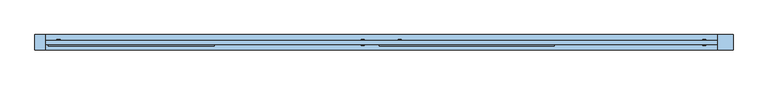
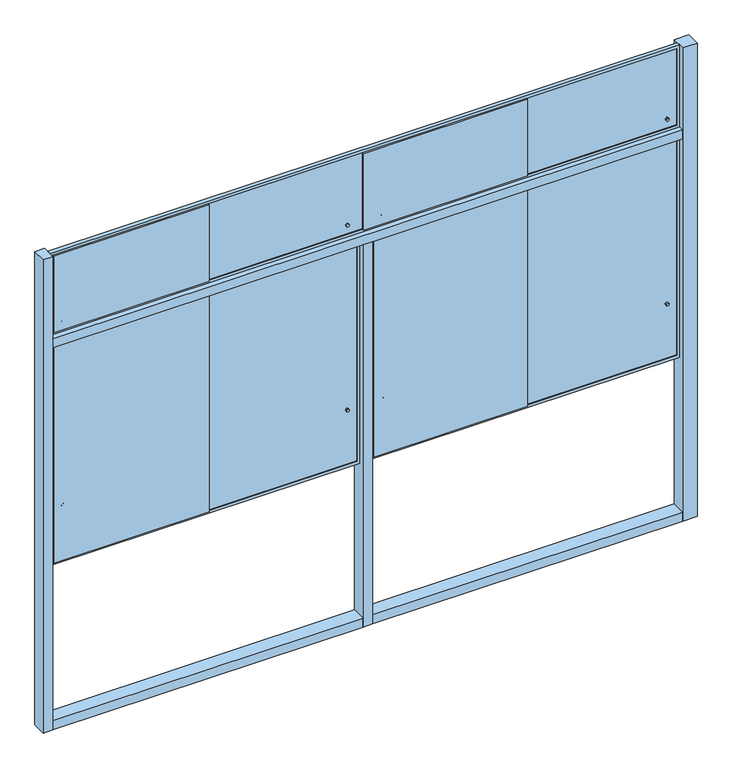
"""IFC4 building model written with IfcOpenShell, lengths in millimetres: window geometry, A5 Cerramiento interior vidrios corredizos : A5 Cerramiento interior vidrios corredizos."""

from ifc_helpers import new_model, si_unit, point, frame, frame_2d, origin, origin_with_axes, place, context, project, spatial, polyline, circle_curve, trimmed, segment, composite_curve, outline, extrude, source, transform, mapped, element, save


def window_60c9f324(model_context):
    return source(origin(), model_context, "Body", "SweptSolid", [
        extrude(outline(composite_curve([segment(trimmed(circle_curve(frame_2d((2215.0, -102.5)), 7.5), [point((2215.0, -110.0))], [point((2215.0, -95.0))], False, "CARTESIAN"), True, "CONTINUOUS"), segment(trimmed(circle_curve(frame_2d((2215.0, -102.5)), 7.5), [point((2215.0, -95.0))], [point((2215.0, -110.0))], False, "CARTESIAN"), True, "CONTINUOUS")], self_intersect=False)), frame((0.0, -15.0, 0.0), z_axis=(0.0, 1.0, 0.0), x_axis=(0.0, 0.0, 1.0)), (0.0, 0.0, 1.0), 30.0),
        extrude(outline(composite_curve([segment(trimmed(circle_curve(frame_2d((1200.0, -102.5)), 7.5), [point((1200.0, -110.0))], [point((1200.0, -95.0))], False, "CARTESIAN"), True, "CONTINUOUS"), segment(trimmed(circle_curve(frame_2d((1200.0, -102.5)), 7.5), [point((1200.0, -95.0))], [point((1200.0, -110.0))], False, "CARTESIAN"), True, "CONTINUOUS")], self_intersect=False)), frame((0.0, -15.0, 0.0), z_axis=(0.0, 1.0, 0.0), x_axis=(0.0, 0.0, 1.0)), (0.0, 0.0, 1.0), 30.0),
        extrude(outline(composite_curve([segment(trimmed(circle_curve(frame_2d((2215.0, 77.4048675)), 7.5), [point((2215.0, 69.9048675))], [point((2215.0, 84.9048675))], False, "CARTESIAN"), True, "CONTINUOUS"), segment(trimmed(circle_curve(frame_2d((2215.0, 77.4048675)), 7.5), [point((2215.0, 84.9048675))], [point((2215.0, 69.9048675))], False, "CARTESIAN"), True, "CONTINUOUS")], self_intersect=False)), frame((0.0, -15.0, 0.0), z_axis=(0.0, 1.0, 0.0), x_axis=(0.0, 0.0, 1.0)), (0.0, 0.0, 1.0), 30.0),
        extrude(outline(composite_curve([segment(trimmed(circle_curve(frame_2d((1200.0, 77.4048675)), 7.5), [point((1200.0, 69.9048675))], [point((1200.0, 84.9048675))], False, "CARTESIAN"), True, "CONTINUOUS"), segment(trimmed(circle_curve(frame_2d((1200.0, 77.4048675)), 7.5), [point((1200.0, 84.9048675))], [point((1200.0, 69.9048675))], False, "CARTESIAN"), True, "CONTINUOUS")], self_intersect=False)), frame((0.0, -15.0, 0.0), z_axis=(0.0, 1.0, 0.0), x_axis=(0.0, 0.0, 1.0)), (0.0, 0.0, 1.0), 30.0),
        extrude(outline(composite_curve([segment(trimmed(circle_curve(frame_2d((2215.0, 1560.0)), 7.5), [point((2215.0, 1552.5))], [point((2215.0, 1567.5))], False, "CARTESIAN"), True, "CONTINUOUS"), segment(trimmed(circle_curve(frame_2d((2215.0, 1560.0)), 7.5), [point((2215.0, 1567.5))], [point((2215.0, 1552.5))], False, "CARTESIAN"), True, "CONTINUOUS")], self_intersect=False)), frame((0.0, -15.0, 0.0), z_axis=(0.0, 1.0, 0.0), x_axis=(0.0, 0.0, 1.0)), (0.0, 0.0, 1.0), 30.0),
        extrude(outline(composite_curve([segment(trimmed(circle_curve(frame_2d((2215.0, -1585.0)), 7.5), [point((2215.0, -1592.5))], [point((2215.0, -1577.5))], False, "CARTESIAN"), True, "CONTINUOUS"), segment(trimmed(circle_curve(frame_2d((2215.0, -1585.0)), 7.5), [point((2215.0, -1577.5))], [point((2215.0, -1592.5))], False, "CARTESIAN"), True, "CONTINUOUS")], self_intersect=False)), frame((0.0, -15.0, 0.0), z_axis=(0.0, 1.0, 0.0), x_axis=(0.0, 0.0, 1.0)), (0.0, 0.0, 1.0), 30.0),
        extrude(outline(composite_curve([segment(trimmed(circle_curve(frame_2d((1200.0, 1560.0)), 7.5), [point((1200.0, 1552.5))], [point((1200.0, 1567.5))], False, "CARTESIAN"), True, "CONTINUOUS"), segment(trimmed(circle_curve(frame_2d((1200.0, 1560.0)), 7.5), [point((1200.0, 1567.5))], [point((1200.0, 1552.5))], False, "CARTESIAN"), True, "CONTINUOUS")], self_intersect=False)), frame((0.0, -15.0, 0.0), z_axis=(0.0, 1.0, 0.0), x_axis=(0.0, 0.0, 1.0)), (0.0, 0.0, 1.0), 30.0),
        extrude(outline(composite_curve([segment(trimmed(circle_curve(frame_2d((1200.0, -1585.0)), 7.5), [point((1200.0, -1592.5))], [point((1200.0, -1577.5))], False, "CARTESIAN"), True, "CONTINUOUS"), segment(trimmed(circle_curve(frame_2d((1200.0, -1585.0)), 7.5), [point((1200.0, -1577.5))], [point((1200.0, -1592.5))], False, "CARTESIAN"), True, "CONTINUOUS")], self_intersect=False)), frame((0.0, -15.0, 0.0), z_axis=(0.0, 1.0, 0.0), x_axis=(0.0, 0.0, 1.0)), (0.0, 0.0, 1.0), 30.0),
        extrude(outline(polyline([(-1650.0, 37.5), (-1650.0, -37.5), (-1700.0, -37.5), (-1700.0, 37.5), (-1650.0, 37.5)])), origin_with_axes(), (0.0, 0.0, 1.0), 2600.0),
        extrude(outline(polyline([(1700.0, 37.5), (1700.0, -37.5), (1625.0, -37.5), (1625.0, 37.5), (1700.0, 37.5)])), origin_with_axes(), (0.0, 0.0, 1.0), 2600.0),
        extrude(outline(polyline([(12.4048675, 37.5), (12.4048675, -37.5), (-37.5, -37.5), (-37.5, 37.5), (12.4048675, 37.5)])), origin_with_axes(), (0.0, 0.0, 1.0), 2100.0),
        extrude(outline(polyline([(-37.5, 37.5), (-37.5, -37.5), (-1650.0, -37.5), (-1650.0, 37.5), (-37.5, 37.5)])), origin_with_axes(), (0.0, 0.0, 1.0), 50.0),
        extrude(outline(polyline([(1625.0, 37.5), (1625.0, -37.5), (12.4048675, -37.5), (12.4048675, 37.5), (1625.0, 37.5)])), origin_with_axes(), (0.0, 0.0, 1.0), 50.0),
        extrude(outline(polyline([(-52.5, 0.0), (-52.5, -6.5), (-847.5, -6.5), (-847.5, 0.0), (-52.5, 0.0)])), frame((0.0, 0.0, 900.0), z_axis=(0.0, 0.0, 1.0), x_axis=(1.0, 0.0, 0.0)), (0.0, 0.0, 1.0), 1185.0),
        extrude(outline(polyline([(1610.0, 0.0), (1610.0, -6.5), (808.7024337, -6.5), (808.7024337, 0.0), (1610.0, 0.0)])), frame((0.0, 0.0, 900.0), z_axis=(0.0, 0.0, 1.0), x_axis=(1.0, 0.0, 0.0)), (0.0, 0.0, 1.0), 1185.0),
        extrude(outline(polyline([(-2.5, 0.0), (-2.5, -6.5), (-847.5, -6.5), (-847.5, 0.0), (-2.5, 0.0)])), frame((0.0, 0.0, 2165.0), z_axis=(0.0, 0.0, 1.0), x_axis=(1.0, 0.0, 0.0)), (0.0, 0.0, 1.0), 420.0),
        extrude(outline(polyline([(1610.0, 0.0), (1610.0, -6.5), (808.7024337, -6.5), (808.7024337, 0.0), (1610.0, 0.0)])), frame((0.0, 0.0, 2165.0), z_axis=(0.0, 0.0, 1.0), x_axis=(1.0, 0.0, 0.0)), (0.0, 0.0, 1.0), 420.0),
        extrude(outline(polyline([(-827.5, 0.0), (-827.5, -18.5), (-1635.0, -18.5), (-1635.0, 0.0), (-827.5, 0.0)])), frame((0.0, 0.0, 900.0), z_axis=(0.0, 0.0, 1.0), x_axis=(1.0, 0.0, 0.0)), (0.0, 0.0, 1.0), 1185.0),
        extrude(outline(polyline([(828.7024337, 0.0), (828.7024337, -18.5), (27.4048675, -18.5), (27.4048675, 0.0), (828.7024337, 0.0)])), frame((0.0, 0.0, 900.0), z_axis=(0.0, 0.0, 1.0), x_axis=(1.0, 0.0, 0.0)), (0.0, 0.0, 1.0), 1185.0),
        extrude(outline(polyline([(-827.5, 0.0), (-827.5, -18.5), (-1635.0, -18.5), (-1635.0, 0.0), (-827.5, 0.0)])), frame((0.0, 0.0, 2165.0), z_axis=(0.0, 0.0, 1.0), x_axis=(1.0, 0.0, 0.0)), (0.0, 0.0, 1.0), 420.0),
        extrude(outline(polyline([(828.7024337, 0.0), (828.7024337, -18.5), (-22.5, -18.5), (-22.5, 0.0), (828.7024337, 0.0)])), frame((0.0, 0.0, 2165.0), z_axis=(0.0, 0.0, 1.0), x_axis=(1.0, 0.0, 0.0)), (0.0, 0.0, 1.0), 420.0),
        extrude(outline(polyline([(2100.0, -37.5), (2100.0, -1650.0), (885.0, -1650.0), (885.0, -37.5), (2100.0, -37.5)]), holes=[polyline([(2085.0, -52.5), (900.0, -52.5), (900.0, -1635.0), (2085.0, -1635.0), (2085.0, -52.5)])]), frame((0.0, -10.0, 0.0), z_axis=(0.0, 1.0, 0.0), x_axis=(0.0, 0.0, 1.0)), (0.0, 0.0, 1.0), 20.0),
        extrude(outline(polyline([(2100.0, 1625.0), (2100.0, 12.4048675), (885.0, 12.4048675), (885.0, 1625.0), (2100.0, 1625.0)]), holes=[polyline([(2085.0, 1610.0), (900.0, 1610.0), (900.0, 27.4048675), (2085.0, 27.4048675), (2085.0, 1610.0)])]), frame((0.0, -10.0, 0.0), z_axis=(0.0, 1.0, 0.0), x_axis=(0.0, 0.0, 1.0)), (0.0, 0.0, 1.0), 20.0),
        extrude(outline(polyline([(2600.0, 1625.0), (2600.0, -1650.0), (2150.0, -1650.0), (2150.0, 1625.0), (2600.0, 1625.0)]), holes=[polyline([(2585.0, 1610.0), (2165.0, 1610.0), (2165.0, -1635.0), (2585.0, -1635.0), (2585.0, 1610.0)])]), frame((0.0, -10.0, 0.0), z_axis=(0.0, 1.0, 0.0), x_axis=(0.0, 0.0, 1.0)), (0.0, 0.0, 1.0), 20.0),
        extrude(outline(polyline([(1625.0, 37.5), (1625.0, -37.5), (-1650.0, -37.5), (-1650.0, 37.5), (1625.0, 37.5)])), frame((0.0, 0.0, 2100.0), z_axis=(0.0, 0.0, 1.0), x_axis=(1.0, 0.0, 0.0)), (0.0, 0.0, 1.0), 50.0),
    ])


if __name__ == "__main__":
    model = new_model("IFC4")
    model_context = context("Model", 3, world=origin())
    ifc_project = project(units=[si_unit("LENGTHUNIT", "METRE", prefix="MILLI")], contexts=[model_context])
    site = spatial("IfcSite", under=ifc_project)
    building = spatial("IfcBuilding", under=site)
    placement = place(None, origin())
    window_shape = window_60c9f324(model_context)
    element("IfcWindow", 1, ObjectType="A5 Cerramiento interior vidrios corredizos : A5 Cerramiento interior vidrios corredizos", at=placement, inside=building, context=model_context, shape_type="MappedRepresentation", body=[
        mapped(window_shape, transform((0.0, 0.0, 0.0), x_axis=(1.0, 0.0, 0.0), y_axis=(0.0, 1.0, 0.0), z_axis=(0.0, 0.0, 1.0))),
    ])
    save(model, "model.ifc")
